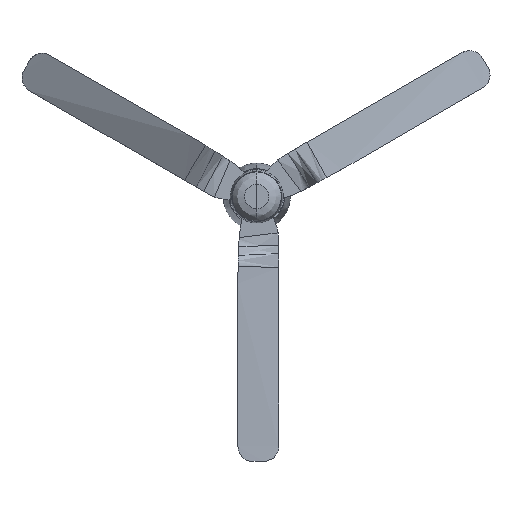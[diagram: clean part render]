
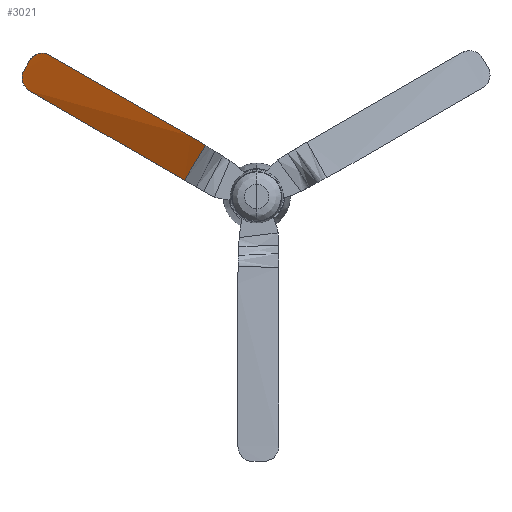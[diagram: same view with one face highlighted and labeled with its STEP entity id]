
A CAD part, top view. The second image highlights one B-rep face of the part: STEP entity #3021.
In plain terms, the highlighted free-form (B-spline) face has degree [1, 1] with [2, 2] control points.
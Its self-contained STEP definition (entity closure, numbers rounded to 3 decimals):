
#387=FACE_OUTER_BOUND('',#561,.T.);
#561=EDGE_LOOP('',(#2151,#2152,#2153,#2154,#2155,#2156,#2157));
#732=B_SPLINE_CURVE_WITH_KNOTS('',3,(#4349,#4350,#4351,#4352,#4353),
 .UNSPECIFIED.,.F.,.F.,(4,1,4),(0.,0.5,1.),.UNSPECIFIED.);
#735=B_SPLINE_CURVE_WITH_KNOTS('',3,(#4379,#4380,#4381,#4382,#4383,#4384,
#4385,#4386,#4387,#4388,#4389,#4390,#4391,#4392),.UNSPECIFIED.,.F.,.F.,
(4,2,2,2,2,2,4),(0.,3.159,7.212,
16.037,30.313,44.193,60.579),
 .UNSPECIFIED.);
#737=B_SPLINE_CURVE_WITH_KNOTS('',3,(#4406,#4407,#4408,#4409,#4410,#4411,
#4412,#4413,#4414),.UNSPECIFIED.,.F.,.F.,(4,1,1,1,1,1,4),(0.,0.167,
0.333,0.5,0.667,0.833,1.),
 .UNSPECIFIED.);
#741=B_SPLINE_CURVE_WITH_KNOTS('',3,(#4442,#4443,#4444,#4445,#4446),
 .UNSPECIFIED.,.F.,.F.,(4,1,4),(0.,0.5,1.),.UNSPECIFIED.);
#753=B_SPLINE_CURVE_WITH_KNOTS('',3,(#4590,#4591,#4592,#4593,#4594,#4595,
#4596,#4597,#4598),.UNSPECIFIED.,.F.,.F.,(4,1,1,1,1,1,4),(0.,0.167,
0.333,0.5,0.667,0.833,1.),
 .UNSPECIFIED.);
#755=B_SPLINE_CURVE_WITH_KNOTS('',3,(#4616,#4617,#4618,#4619,#4620,#4621,
#4622,#4623,#4624,#4625,#4626,#4627,#4628,#4629,#4630,#4631),
 .UNSPECIFIED.,.F.,.F.,(4,2,2,2,2,2,2,4),(0.,8.455,
17.219,30.428,43.801,53.194,57.549,
60.905),.UNSPECIFIED.);
#911=LINE('',#4657,#1081);
#1081=VECTOR('',#3611,304.8);
#1242=VERTEX_POINT('',#4345);
#1244=VERTEX_POINT('',#4348);
#1247=VERTEX_POINT('',#4363);
#1249=VERTEX_POINT('',#4395);
#1253=VERTEX_POINT('',#4441);
#1279=VERTEX_POINT('',#4553);
#1281=VERTEX_POINT('',#4583);
#1561=EDGE_CURVE('',#1244,#1242,#732,.T.);
#1566=EDGE_CURVE('',#1247,#1244,#735,.T.);
#1569=EDGE_CURVE('',#1249,#1247,#737,.T.);
#1574=EDGE_CURVE('',#1253,#1249,#741,.T.);
#1617=EDGE_CURVE('',#1279,#1281,#753,.T.);
#1619=EDGE_CURVE('',#1242,#1279,#755,.T.);
#1621=EDGE_CURVE('',#1281,#1253,#911,.T.);
#2151=ORIENTED_EDGE('',*,*,#1621,.T.);
#2152=ORIENTED_EDGE('',*,*,#1574,.T.);
#2153=ORIENTED_EDGE('',*,*,#1569,.T.);
#2154=ORIENTED_EDGE('',*,*,#1566,.T.);
#2155=ORIENTED_EDGE('',*,*,#1561,.T.);
#2156=ORIENTED_EDGE('',*,*,#1619,.T.);
#2157=ORIENTED_EDGE('',*,*,#1617,.T.);
#2975=B_SPLINE_SURFACE_WITH_KNOTS('',1,1,((#4688,#4689),(#4690,#4691)),
 .UNSPECIFIED.,.F.,.F.,.F.,(2,2),(2,2),(0.,1.),(0.,1.),.UNSPECIFIED.);
#3021=ADVANCED_FACE('',(#387),#2975,.T.);
#3611=DIRECTION('',(0.465,0.765,0.446));
#4345=CARTESIAN_POINT('',(-580.162,315.131,140.702));
#4348=CARTESIAN_POINT('',(-566.701,338.445,150.034));
#4349=CARTESIAN_POINT('Ctrl Pts',(-566.701,338.445,150.034));
#4350=CARTESIAN_POINT('Ctrl Pts',(-568.945,334.559,148.479));
#4351=CARTESIAN_POINT('Ctrl Pts',(-573.431,326.788,145.369));
#4352=CARTESIAN_POINT('Ctrl Pts',(-577.918,319.016,142.258));
#4353=CARTESIAN_POINT('Ctrl Pts',(-580.162,315.131,140.702));
#4363=CARTESIAN_POINT('',(-516.194,352.04,166.487));
#4379=CARTESIAN_POINT('Ctrl Pts',(-516.194,352.04,166.487));
#4380=CARTESIAN_POINT('Ctrl Pts',(-517.103,352.562,166.384));
#4381=CARTESIAN_POINT('Ctrl Pts',(-518.032,353.045,166.264));
#4382=CARTESIAN_POINT('Ctrl Pts',(-520.192,354.053,165.957));
#4383=CARTESIAN_POINT('Ctrl Pts',(-521.433,354.551,165.76));
#4384=CARTESIAN_POINT('Ctrl Pts',(-525.443,355.917,165.061));
#4385=CARTESIAN_POINT('Ctrl Pts',(-528.272,356.52,164.476));
#4386=CARTESIAN_POINT('Ctrl Pts',(-535.736,357.231,162.714));
#4387=CARTESIAN_POINT('Ctrl Pts',(-540.341,356.797,161.41));
#4388=CARTESIAN_POINT('Ctrl Pts',(-548.96,354.359,158.574));
#4389=CARTESIAN_POINT('Ctrl Pts',(-552.936,352.414,157.065));
#4390=CARTESIAN_POINT('Ctrl Pts',(-560.628,346.8,153.688));
#4391=CARTESIAN_POINT('Ctrl Pts',(-564.117,342.921,151.825));
#4392=CARTESIAN_POINT('Ctrl Pts',(-566.701,338.445,150.034));
#4395=CARTESIAN_POINT('',(-164.643,150.147,206.722));
#4406=CARTESIAN_POINT('Ctrl Pts',(-164.643,150.147,206.722));
#4407=CARTESIAN_POINT('Ctrl Pts',(-184.173,161.363,204.48));
#4408=CARTESIAN_POINT('Ctrl Pts',(-223.233,183.795,199.999));
#4409=CARTESIAN_POINT('Ctrl Pts',(-281.824,217.444,193.284));
#4410=CARTESIAN_POINT('Ctrl Pts',(-340.416,251.092,186.575));
#4411=CARTESIAN_POINT('Ctrl Pts',(-399.008,284.741,179.872));
#4412=CARTESIAN_POINT('Ctrl Pts',(-457.601,318.391,173.176));
#4413=CARTESIAN_POINT('Ctrl Pts',(-496.663,340.824,168.716));
#4414=CARTESIAN_POINT('Ctrl Pts',(-516.194,352.04,166.487));
#4441=CARTESIAN_POINT('',(-127.78,127.262,210.302));
#4442=CARTESIAN_POINT('Ctrl Pts',(-127.78,127.262,210.302));
#4443=CARTESIAN_POINT('Ctrl Pts',(-133.924,131.077,209.708));
#4444=CARTESIAN_POINT('Ctrl Pts',(-146.212,138.705,208.518));
#4445=CARTESIAN_POINT('Ctrl Pts',(-158.499,146.333,207.322));
#4446=CARTESIAN_POINT('Ctrl Pts',(-164.643,150.147,206.722));
#4553=CARTESIAN_POINT('',(-566.321,263.502,130.113));
#4583=CARTESIAN_POINT('',(-180.38,40.795,159.854));
#4590=CARTESIAN_POINT('Ctrl Pts',(-566.321,263.502,130.113));
#4591=CARTESIAN_POINT('Ctrl Pts',(-544.88,251.13,131.764));
#4592=CARTESIAN_POINT('Ctrl Pts',(-501.998,226.384,135.067));
#4593=CARTESIAN_POINT('Ctrl Pts',(-437.674,189.266,140.023));
#4594=CARTESIAN_POINT('Ctrl Pts',(-373.35,152.149,144.98));
#4595=CARTESIAN_POINT('Ctrl Pts',(-309.027,115.031,149.937));
#4596=CARTESIAN_POINT('Ctrl Pts',(-244.703,77.913,154.895));
#4597=CARTESIAN_POINT('Ctrl Pts',(-201.821,53.168,158.201));
#4598=CARTESIAN_POINT('Ctrl Pts',(-180.38,40.795,159.854));
#4616=CARTESIAN_POINT('Ctrl Pts',(-580.162,315.131,140.702));
#4617=CARTESIAN_POINT('Ctrl Pts',(-581.493,312.825,139.779));
#4618=CARTESIAN_POINT('Ctrl Pts',(-582.581,310.377,138.877));
#4619=CARTESIAN_POINT('Ctrl Pts',(-584.256,305.179,137.111));
#4620=CARTESIAN_POINT('Ctrl Pts',(-584.819,302.433,136.254));
#4621=CARTESIAN_POINT('Ctrl Pts',(-585.452,295.419,134.248));
#4622=CARTESIAN_POINT('Ctrl Pts',(-585.126,291.129,133.183));
#4623=CARTESIAN_POINT('Ctrl Pts',(-582.993,282.717,131.43));
#4624=CARTESIAN_POINT('Ctrl Pts',(-581.187,278.67,130.761));
#4625=CARTESIAN_POINT('Ctrl Pts',(-576.948,272.428,130.06));
#4626=CARTESIAN_POINT('Ctrl Pts',(-574.884,270.073,129.901));
#4627=CARTESIAN_POINT('Ctrl Pts',(-571.464,267.032,129.872));
#4628=CARTESIAN_POINT('Ctrl Pts',(-570.327,266.132,129.892));
#4629=CARTESIAN_POINT('Ctrl Pts',(-568.227,264.659,129.982));
#4630=CARTESIAN_POINT('Ctrl Pts',(-567.287,264.059,130.038));
#4631=CARTESIAN_POINT('Ctrl Pts',(-566.321,263.502,130.113));
#4657=CARTESIAN_POINT('',(-180.38,40.795,159.854));
#4688=CARTESIAN_POINT('Ctrl Pts',(-127.059,128.448,210.994));
#4689=CARTESIAN_POINT('Ctrl Pts',(-180.432,40.709,159.803));
#4690=CARTESIAN_POINT('Ctrl Pts',(-547.377,371.119,163.223));
#4691=CARTESIAN_POINT('Ctrl Pts',(-599.649,282.744,127.548));
